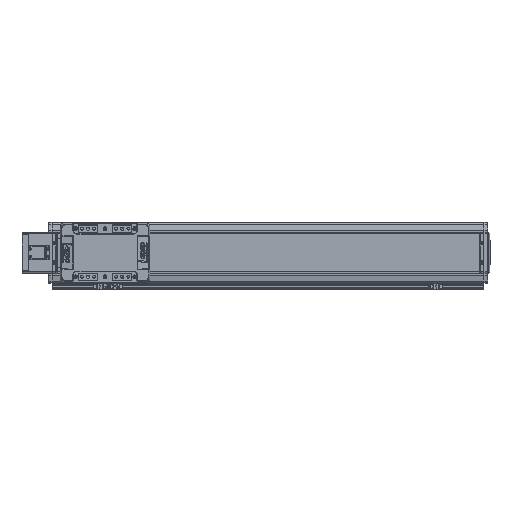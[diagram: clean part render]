
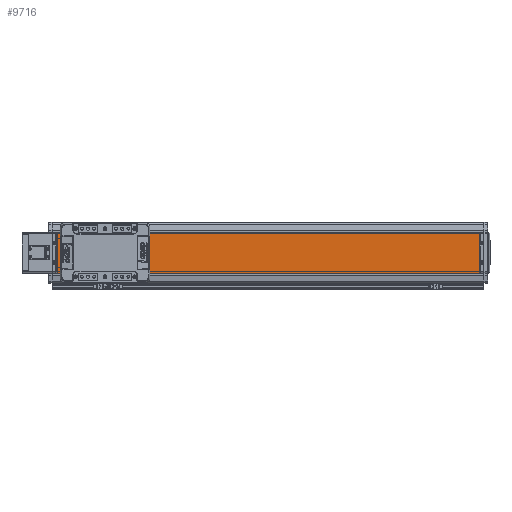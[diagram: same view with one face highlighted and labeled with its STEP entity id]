
A CAD part, top view. The second image highlights one B-rep face of the part: STEP entity #9716.
In plain terms, the highlighted planar face has unit normal (0, 0, 1).
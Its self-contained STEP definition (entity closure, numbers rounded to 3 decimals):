
#9716=ADVANCED_FACE('',(#20130),#20131,.F.);
#20130=FACE_OUTER_BOUND('',#33120,.T.);
#20131=PLANE('',#33121);
#33120=EDGE_LOOP('',(#60123,#60124,#60125,#60126));
#33121=AXIS2_PLACEMENT_3D('',#60127,#60128,#60129);
#60123=ORIENTED_EDGE('',*,*,#73541,.F.);
#60124=ORIENTED_EDGE('',*,*,#75184,.F.);
#60125=ORIENTED_EDGE('',*,*,#75762,.F.);
#60126=ORIENTED_EDGE('',*,*,#77673,.T.);
#60127=CARTESIAN_POINT('',(0.,0.,26.));
#60128=DIRECTION('',(0.,0.,-1.0));
#60129=DIRECTION('',(0.,1.0,0.));
#73541=EDGE_CURVE('',#90131,#90133,#90134,.T.);
#75184=EDGE_CURVE('',#92476,#90131,#92478,.T.);
#75762=EDGE_CURVE('',#93268,#92476,#93270,.T.);
#77673=EDGE_CURVE('',#93268,#90133,#95630,.T.);
#90131=VERTEX_POINT('',#112331);
#90133=VERTEX_POINT('',#112334);
#90134=LINE('',#112335,#112336);
#92476=VERTEX_POINT('',#115643);
#92478=LINE('',#115646,#115647);
#93268=VERTEX_POINT('',#116762);
#93270=LINE('',#116765,#116766);
#95630=LINE('',#120551,#120552);
#112331=CARTESIAN_POINT('',(1060.0,50.,26.));
#112334=CARTESIAN_POINT('',(1060.0,-50.,26.));
#112335=CARTESIAN_POINT('',(1060.0,-50.,26.));
#112336=VECTOR('',#132539,10.0);
#115643=CARTESIAN_POINT('',(0.,50.,26.));
#115646=CARTESIAN_POINT('',(0.,50.,26.));
#115647=VECTOR('',#134770,10.0);
#116762=CARTESIAN_POINT('',(0.,-50.,26.));
#116765=CARTESIAN_POINT('',(0.,-50.,26.));
#116766=VECTOR('',#135563,10.0);
#120551=CARTESIAN_POINT('',(0.,-50.,26.));
#120552=VECTOR('',#137862,10.0);
#132539=DIRECTION('',(0.,-1.0,0.));
#134770=DIRECTION('',(1.0,0.,0.));
#135563=DIRECTION('',(0.,1.0,0.));
#137862=DIRECTION('',(1.0,0.,0.));
